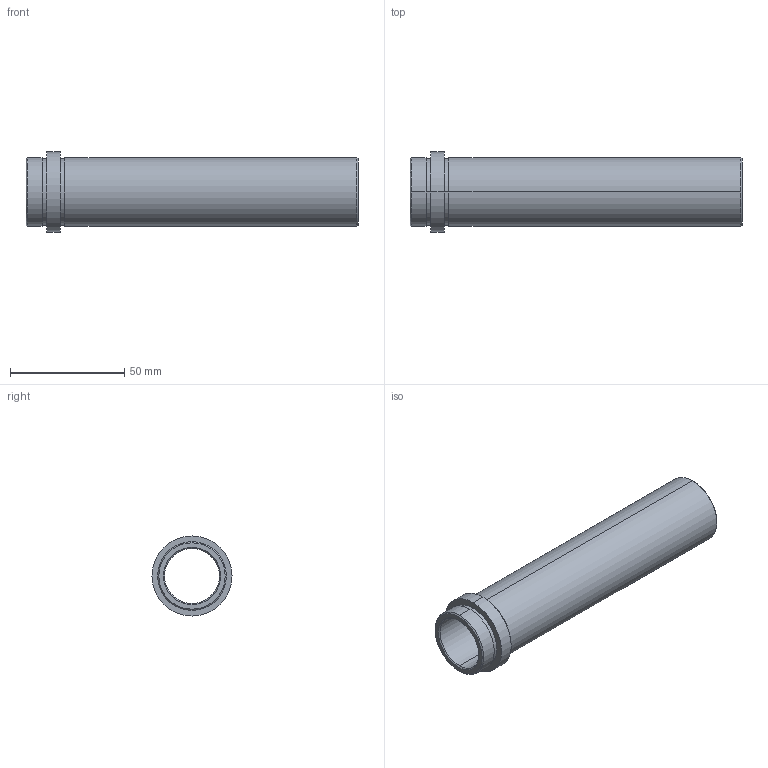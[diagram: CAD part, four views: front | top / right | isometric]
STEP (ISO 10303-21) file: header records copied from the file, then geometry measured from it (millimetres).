
FILE_DESCRIPTION( ( 'STEP AP203' ), '1' );
FILE_NAME( 'D:/Delta 3 D/D21/D21 - 24x136.step', '2002-12-31T22:47:02', ( ' ' ), ( ' ' ), 'XStep 1.0', ' ', ' ' );
FILE_SCHEMA( ( 'CONFIG_CONTROL_DESIGN' ) );
Length unit declared in the file: metre
Products named in the file (1): 1
Bounding box: 145 x 35 x 35 mm (x, y, z)
Volume: 38201.8 mm3; surface area: 25785.8 mm2
Topology: 1 solids, 1 shells, 26 faces, 52 edges, 32 vertices
Faces by surface type: revolution 20, bspline 6
Entity records: 773 total; most frequent: CARTESIAN_POINT 169, DIRECTION 106, ORIENTED_EDGE 104, EDGE_CURVE 52, AXIS2_PLACEMENT_3D 33, EDGE_LOOP 32, VERTEX_POINT 32, CIRCLE 32
